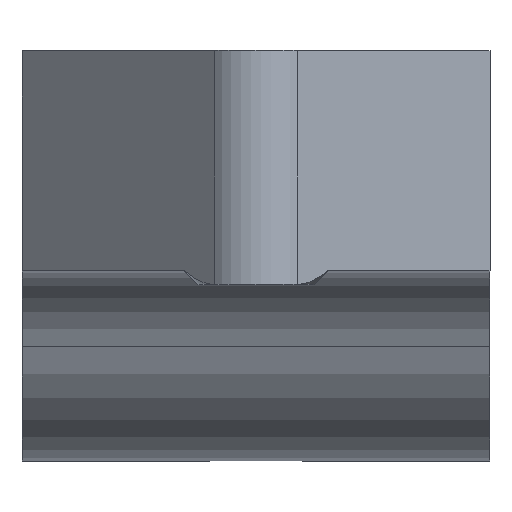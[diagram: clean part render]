
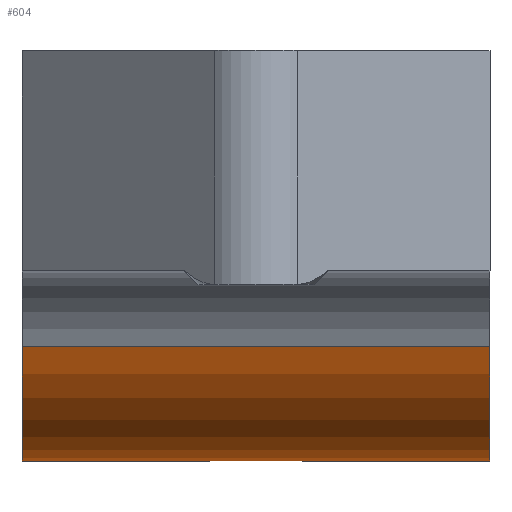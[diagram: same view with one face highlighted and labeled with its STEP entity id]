
A CAD part, top view. The second image highlights one B-rep face of the part: STEP entity #604.
In plain terms, the highlighted cylindrical face has radius 7.5 mm (diameter 15 mm), a partial arc.
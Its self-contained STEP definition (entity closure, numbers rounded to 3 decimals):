
#66 = EDGE_CURVE ( 'NONE', #1683, #1575, #954, .T. ) ;
#77 = EDGE_CURVE ( 'NONE', #1627, #1560, #963, .T. ) ;
#78 = EDGE_CURVE ( 'NONE', #1683, #1489, #940, .T. ) ;
#79 = EDGE_CURVE ( 'NONE', #1601, #1649, #974, .T. ) ;
#80 = EDGE_CURVE ( 'NONE', #1627, #1616, #975, .T. ) ;
#85 = EDGE_CURVE ( 'NONE', #1575, #1649, #981, .T. ) ;
#86 = EDGE_CURVE ( 'NONE', #1489, #1560, #985, .T. ) ;
#89 = EDGE_CURVE ( 'NONE', #1616, #1601, #988, .T. ) ;
#119 = DIRECTION ( 'NONE',  ( 1., 0., 0. ) ) ;
#122 = CARTESIAN_POINT ( 'NONE',  ( 20., -2.64, 7.02 ) ) ;
#128 = DIRECTION ( 'NONE',  ( -1., 0., 0. ) ) ;
#130 = CARTESIAN_POINT ( 'NONE',  ( 20., -6.599, -3.564 ) ) ;
#135 = DIRECTION ( 'NONE',  ( -1., 0., 0. ) ) ;
#144 = CARTESIAN_POINT ( 'NONE',  ( 8., 0., 0. ) ) ;
#148 = DIRECTION ( 'NONE',  ( -1., 0., 0. ) ) ;
#175 = DIRECTION ( 'NONE',  ( 0., 0., 1. ) ) ;
#183 = DIRECTION ( 'NONE',  ( -1., 0., 0. ) ) ;
#212 = DIRECTION ( 'NONE',  ( 0., 0., 1. ) ) ;
#214 = CARTESIAN_POINT ( 'NONE',  ( 12., 0., 0. ) ) ;
#215 = DIRECTION ( 'NONE',  ( -1., 0., 0. ) ) ;
#236 = CARTESIAN_POINT ( 'NONE',  ( 20., -2.64, 7.02 ) ) ;
#257 = CARTESIAN_POINT ( 'NONE',  ( 8., -7.071, -2.5 ) ) ;
#281 = CARTESIAN_POINT ( 'NONE',  ( 20., -7.071, -2.5 ) ) ;
#288 = DIRECTION ( 'NONE',  ( 1., 0., 0. ) ) ;
#333 = CARTESIAN_POINT ( 'NONE',  ( 20., -6.599, -3.564 ) ) ;
#344 = CARTESIAN_POINT ( 'NONE',  ( 0., -2.64, 7.02 ) ) ;
#391 = CARTESIAN_POINT ( 'NONE',  ( 20., 0., 0. ) ) ;
#400 = DIRECTION ( 'NONE',  ( 0., 0., -1. ) ) ;
#415 = CARTESIAN_POINT ( 'NONE',  ( 0., 0., 0. ) ) ;
#419 = CARTESIAN_POINT ( 'NONE',  ( 12., -6.599, -3.564 ) ) ;
#466 = CARTESIAN_POINT ( 'NONE',  ( 0., -6.599, -3.564 ) ) ;
#469 = CARTESIAN_POINT ( 'NONE',  ( 8., -6.599, -3.564 ) ) ;
#494 = DIRECTION ( 'NONE',  ( 1., 0., 0. ) ) ;
#511 = CARTESIAN_POINT ( 'NONE',  ( 12., -7.071, -2.5 ) ) ;
#516 = CARTESIAN_POINT ( 'NONE',  ( 20., -6.599, -3.564 ) ) ;
#521 = DIRECTION ( 'NONE',  ( 0., 0., -1. ) ) ;
#604 = ADVANCED_FACE ( 'NONE', ( #1055 ), #1073, .T. ) ;
#703 = ORIENTED_EDGE ( 'NONE', *, *, #86, .T. ) ;
#704 = ORIENTED_EDGE ( 'NONE', *, *, #78, .T. ) ;
#705 = ORIENTED_EDGE ( 'NONE', *, *, #66, .F. ) ;
#706 = ORIENTED_EDGE ( 'NONE', *, *, #85, .F. ) ;
#707 = ORIENTED_EDGE ( 'NONE', *, *, #79, .T. ) ;
#708 = ORIENTED_EDGE ( 'NONE', *, *, #89, .T. ) ;
#709 = ORIENTED_EDGE ( 'NONE', *, *, #80, .T. ) ;
#710 = ORIENTED_EDGE ( 'NONE', *, *, #77, .F. ) ;
#846 = EDGE_LOOP ( 'NONE', ( #710, #709, #708, #707, #706, #705, #704, #703 ) ) ;
#940 = LINE ( 'NONE', #122, #971 ) ;
#954 = CIRCLE ( 'NONE', #1736, 7.5 ) ;
#963 = LINE ( 'NONE', #516, #969 ) ;
#969 = VECTOR ( 'NONE', #128, 1000. ) ;
#971 = VECTOR ( 'NONE', #215, 1000. ) ;
#974 = CIRCLE ( 'NONE', #1734, 7.5 ) ;
#975 = CIRCLE ( 'NONE', #1262, 7.5 ) ;
#981 = LINE ( 'NONE', #130, #982 ) ;
#982 = VECTOR ( 'NONE', #135, 1000. ) ;
#985 = CIRCLE ( 'NONE', #1267, 7.5 ) ;
#988 = LINE ( 'NONE', #281, #989 ) ;
#989 = VECTOR ( 'NONE', #494, 1000. ) ;
#1055 = FACE_OUTER_BOUND ( 'NONE', #846, .T. ) ;
#1073 = CYLINDRICAL_SURFACE ( 'NONE', #1303, 7.5 ) ;
#1262 = AXIS2_PLACEMENT_3D ( 'NONE', #144, #148, #212 ) ;
#1267 = AXIS2_PLACEMENT_3D ( 'NONE', #415, #288, #400 ) ;
#1303 = AXIS2_PLACEMENT_3D ( 'NONE', #391, #183, #175 ) ;
#1489 = VERTEX_POINT ( 'NONE', #344 ) ;
#1516 = DIRECTION ( 'NONE',  ( 0., 0., -1. ) ) ;
#1559 = CARTESIAN_POINT ( 'NONE',  ( 20., 0., 0. ) ) ;
#1560 = VERTEX_POINT ( 'NONE', #466 ) ;
#1575 = VERTEX_POINT ( 'NONE', #333 ) ;
#1601 = VERTEX_POINT ( 'NONE', #511 ) ;
#1616 = VERTEX_POINT ( 'NONE', #257 ) ;
#1627 = VERTEX_POINT ( 'NONE', #469 ) ;
#1649 = VERTEX_POINT ( 'NONE', #419 ) ;
#1661 = DIRECTION ( 'NONE',  ( 1., 0., 0. ) ) ;
#1683 = VERTEX_POINT ( 'NONE', #236 ) ;
#1734 = AXIS2_PLACEMENT_3D ( 'NONE', #214, #119, #521 ) ;
#1736 = AXIS2_PLACEMENT_3D ( 'NONE', #1559, #1661, #1516 ) ;
